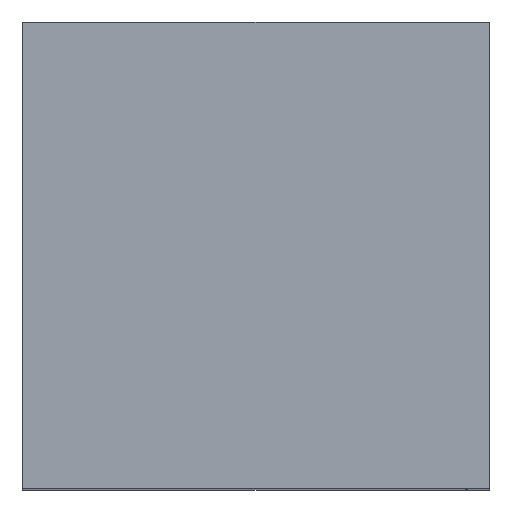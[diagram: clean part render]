
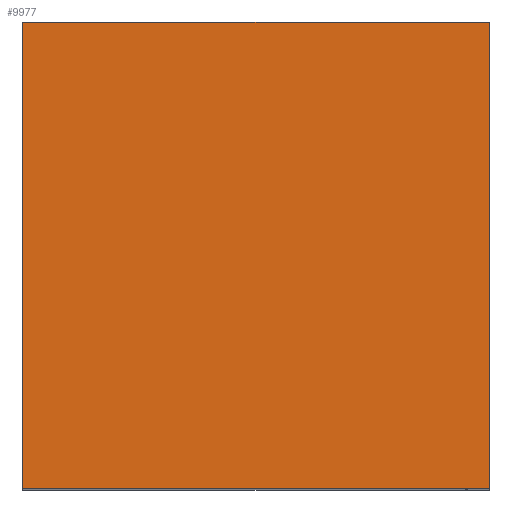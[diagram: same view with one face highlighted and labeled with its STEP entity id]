
A CAD part, top view. The second image highlights one B-rep face of the part: STEP entity #9977.
In plain terms, the highlighted planar face has unit normal (0, 0, 1).
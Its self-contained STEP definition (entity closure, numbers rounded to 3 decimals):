
#440=ORIENTED_EDGE('',*,*,#3242,.T.);
#441=ORIENTED_EDGE('',*,*,#3246,.T.);
#442=ORIENTED_EDGE('',*,*,#3249,.T.);
#443=ORIENTED_EDGE('',*,*,#3251,.T.);
#3242=EDGE_CURVE('',#4657,#4656,#5636,.T.);
#3246=EDGE_CURVE('',#4656,#4659,#5640,.T.);
#3249=EDGE_CURVE('',#4659,#4661,#5643,.T.);
#3251=EDGE_CURVE('',#4661,#4657,#5645,.T.);
#4656=VERTEX_POINT('',#14886);
#4657=VERTEX_POINT('',#14888);
#4659=VERTEX_POINT('',#14894);
#4661=VERTEX_POINT('',#14900);
#5636=LINE('',#14887,#6830);
#5640=LINE('',#14895,#6834);
#5643=LINE('',#14901,#6837);
#5645=LINE('',#14904,#6839);
#6830=VECTOR('',#11970,1000.);
#6834=VECTOR('',#11976,1000.);
#6837=VECTOR('',#11981,1000.);
#6839=VECTOR('',#11985,1000.);
#8022=EDGE_LOOP('',(#440,#441,#442,#443));
#8762=FACE_BOUND('',#8022,.T.);
#9496=PLANE('',#11060);
#9977=ADVANCED_FACE('',(#8762),#9496,.T.);
#11060=AXIS2_PLACEMENT_3D('',#14905,#11986,#11987);
#11970=DIRECTION('',(-1.,0.,0.));
#11976=DIRECTION('',(0.,-1.,0.));
#11981=DIRECTION('',(1.,0.,0.));
#11985=DIRECTION('',(0.,1.,0.));
#11986=DIRECTION('',(0.,0.,1.));
#11987=DIRECTION('',(1.,0.,0.));
#14886=CARTESIAN_POINT('',(0.,419.,19.));
#14887=CARTESIAN_POINT('',(419.,419.,19.));
#14888=CARTESIAN_POINT('',(419.,419.,19.));
#14894=CARTESIAN_POINT('',(0.,0.,19.));
#14895=CARTESIAN_POINT('',(0.,419.,19.));
#14900=CARTESIAN_POINT('',(419.,0.,19.));
#14901=CARTESIAN_POINT('',(0.,0.,19.));
#14904=CARTESIAN_POINT('',(419.,0.,19.));
#14905=CARTESIAN_POINT('',(0.,0.,19.));
